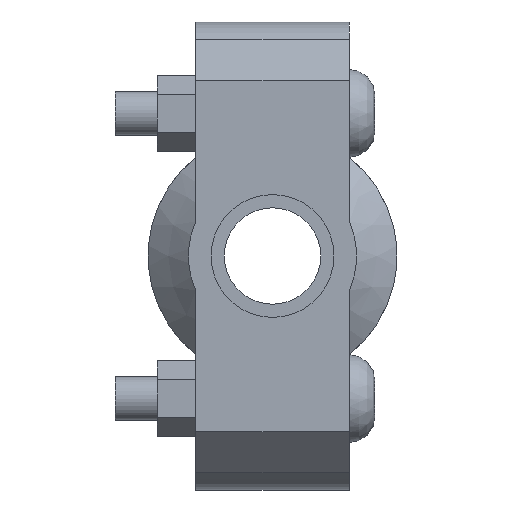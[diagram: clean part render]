
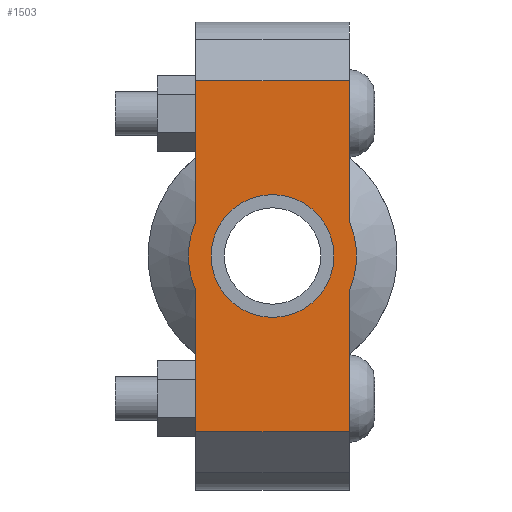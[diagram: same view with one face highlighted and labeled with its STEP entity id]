
A CAD part, left-side view. The second image highlights one B-rep face of the part: STEP entity #1503.
In plain terms, the highlighted planar face has unit normal (-1, 0, 0) as drawn and (0, 0, 1) by its records, which use the part's own axes.
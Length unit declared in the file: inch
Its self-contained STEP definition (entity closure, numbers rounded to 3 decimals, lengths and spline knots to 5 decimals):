
#114=LINE('',#2581,#209);
#129=LINE('',#2640,#224);
#137=LINE('',#2670,#232);
#139=LINE('',#2673,#234);
#140=LINE('',#2678,#235);
#141=LINE('',#2679,#236);
#209=VECTOR('',#2091,0.3937);
#224=VECTOR('',#2126,0.3937);
#232=VECTOR('',#2146,0.3937);
#234=VECTOR('',#2150,0.3937);
#235=VECTOR('',#2155,0.3937);
#236=VECTOR('',#2156,0.3937);
#296=FACE_BOUND('',#455,.T.);
#356=FACE_OUTER_BOUND('',#454,.T.);
#454=EDGE_LOOP('',(#1198,#1199,#1200,#1201,#1202,#1203,#1204,#1205));
#455=EDGE_LOOP('',(#1206));
#560=CIRCLE('',#1766,0.719);
#561=CIRCLE('',#1767,0.719);
#562=CIRCLE('',#1768,0.525);
#669=VERTEX_POINT('',#2578);
#670=VERTEX_POINT('',#2580);
#691=VERTEX_POINT('',#2635);
#692=VERTEX_POINT('',#2639);
#701=VERTEX_POINT('',#2665);
#702=VERTEX_POINT('',#2669);
#703=VERTEX_POINT('',#2675);
#704=VERTEX_POINT('',#2677);
#705=VERTEX_POINT('',#2681);
#839=EDGE_CURVE('',#670,#669,#114,.T.);
#864=EDGE_CURVE('',#692,#691,#129,.T.);
#877=EDGE_CURVE('',#702,#701,#137,.T.);
#879=EDGE_CURVE('',#702,#669,#139,.T.);
#880=EDGE_CURVE('',#701,#703,#560,.T.);
#881=EDGE_CURVE('',#703,#704,#140,.T.);
#882=EDGE_CURVE('',#692,#704,#141,.T.);
#883=EDGE_CURVE('',#691,#670,#561,.T.);
#884=EDGE_CURVE('',#705,#705,#562,.T.);
#1198=ORIENTED_EDGE('',*,*,#879,.F.);
#1199=ORIENTED_EDGE('',*,*,#877,.T.);
#1200=ORIENTED_EDGE('',*,*,#880,.T.);
#1201=ORIENTED_EDGE('',*,*,#881,.T.);
#1202=ORIENTED_EDGE('',*,*,#882,.F.);
#1203=ORIENTED_EDGE('',*,*,#864,.T.);
#1204=ORIENTED_EDGE('',*,*,#883,.T.);
#1205=ORIENTED_EDGE('',*,*,#839,.T.);
#1206=ORIENTED_EDGE('',*,*,#884,.T.);
#1355=PLANE('',#1765);
#1503=ADVANCED_FACE('',(#356,#296),#1355,.T.);
#1765=AXIS2_PLACEMENT_3D('',#2674,#2151,#2152);
#1766=AXIS2_PLACEMENT_3D('',#2676,#2153,#2154);
#1767=AXIS2_PLACEMENT_3D('',#2680,#2157,#2158);
#1768=AXIS2_PLACEMENT_3D('',#2682,#2159,#2160);
#2091=DIRECTION('',(1.,0.,0.));
#2126=DIRECTION('',(1.,0.,0.));
#2146=DIRECTION('',(-1.,0.,0.));
#2150=DIRECTION('',(0.,-1.,0.));
#2151=DIRECTION('center_axis',(0.,0.,1.));
#2152=DIRECTION('ref_axis',(-1.,0.,0.));
#2153=DIRECTION('center_axis',(0.,0.,1.));
#2154=DIRECTION('ref_axis',(1.,0.,0.));
#2155=DIRECTION('',(-1.,0.,0.));
#2156=DIRECTION('',(0.,1.,0.));
#2157=DIRECTION('center_axis',(0.,0.,1.));
#2158=DIRECTION('ref_axis',(1.,0.,0.));
#2159=DIRECTION('center_axis',(0.,0.,-1.));
#2160=DIRECTION('ref_axis',(1.,0.,0.));
#2578=CARTESIAN_POINT('',(1.5,-0.656,0.875));
#2580=CARTESIAN_POINT('',(0.29432,-0.656,0.875));
#2581=CARTESIAN_POINT('',(-2.,-0.656,0.875));
#2635=CARTESIAN_POINT('',(-0.29432,-0.656,0.875));
#2639=CARTESIAN_POINT('',(-1.5,-0.656,0.875));
#2640=CARTESIAN_POINT('',(-2.,-0.656,0.875));
#2665=CARTESIAN_POINT('',(0.29432,0.656,0.875));
#2669=CARTESIAN_POINT('',(1.5,0.656,0.875));
#2670=CARTESIAN_POINT('',(2.,0.656,0.875));
#2673=CARTESIAN_POINT('',(1.5,-0.328,0.875));
#2674=CARTESIAN_POINT('Origin',(0.,0.,
0.875));
#2675=CARTESIAN_POINT('',(-0.29432,0.656,0.875));
#2676=CARTESIAN_POINT('Origin',(0.,0.,0.875));
#2677=CARTESIAN_POINT('',(-1.5,0.656,0.875));
#2678=CARTESIAN_POINT('',(2.,0.656,0.875));
#2679=CARTESIAN_POINT('',(-1.5,0.328,0.875));
#2680=CARTESIAN_POINT('Origin',(0.,0.,0.875));
#2681=CARTESIAN_POINT('',(-0.525,0.,0.875));
#2682=CARTESIAN_POINT('Origin',(0.,0.,0.875));
